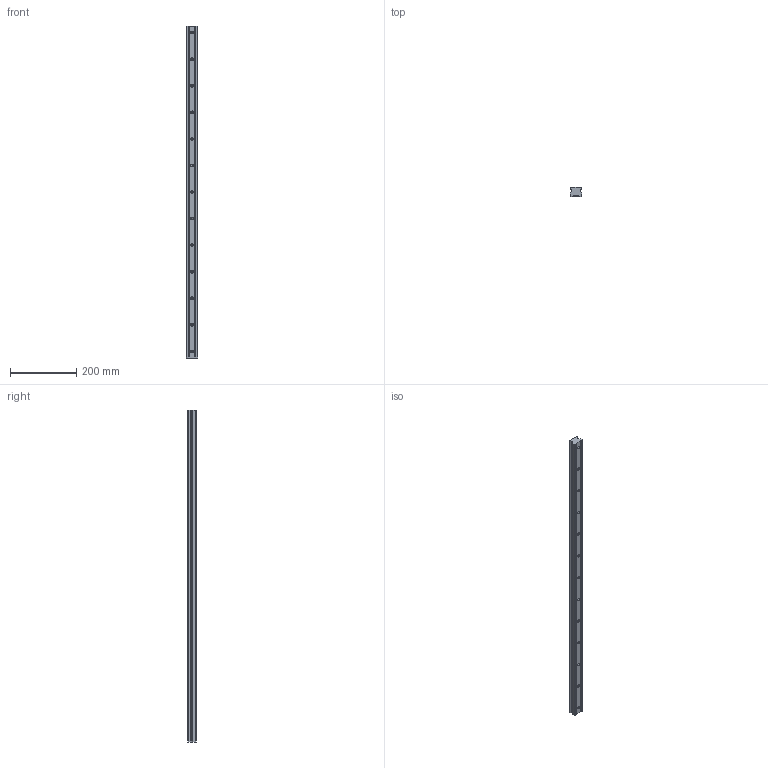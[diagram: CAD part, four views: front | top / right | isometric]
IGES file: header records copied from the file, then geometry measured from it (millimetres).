
Start section: SolidWorks IGES file using analytic representation for surfaces
Global section: file name: C:\Users\IanO\Desktop\Temp File\GENERAL\L1016_v2\L1016.RF35_v2\L1016.RF35_v2_20190612_IGES\L1016.RF35-1000.igs; native system: SolidWorks 2017; preprocessor: SolidWorks 2017; author: IanO; date: 190613.172637; units: millimetre
Bounding box: 34 x 26 x 1000 mm (x, y, z)
Surface area: 131455.6 mm2 (no closed solid volume)
Topology: 0 solids, 0 shells, 117 faces, 1728 edges, 1702 vertices
Faces by surface type: revolution 82, bspline 35
